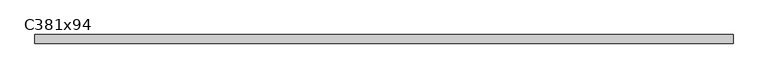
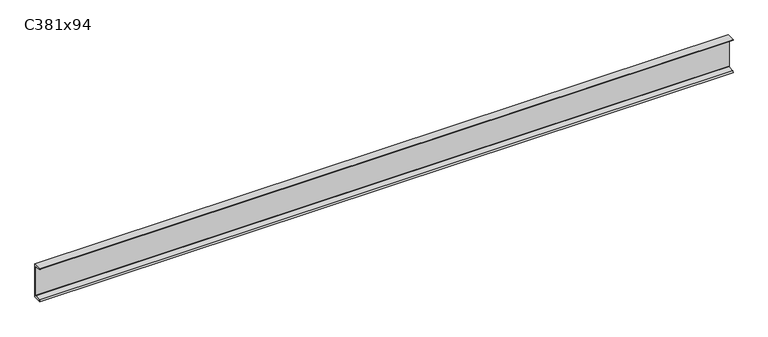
"""IFC4 building model written with IfcOpenShell, lengths in millimetres: beam geometry, M_C-Channel_305x105 : C381x94."""

from ifc_helpers import new_model, si_unit, point, frame, frame_2d, origin, place, context, project, spatial, polyline, circle_curve, trimmed, segment, composite_curve, outline, extrude, source, transform, mapped, element, save


def c381x94_58a36d87(model_context):
    return source(origin(), model_context, "Body", "SweptSolid", [
        extrude(outline(composite_curve([segment(polyline([(13.8909985, 190.5), (13.8909985, -190.5), (-80.1090015, -190.5)]), True, "CONTINUOUS"), segment(trimmed(circle_curve(frame_2d((-67.4090015, -190.5)), 12.7), [point((-80.1090015, -190.5))], [point((-67.4090015, -177.8))], False, "CARTESIAN"), True, "CONTINUOUS"), segment(polyline([(-67.4090015, -177.8), (0.8909985, -166.9823427), (0.8909985, 166.9823427), (-67.4090015, 177.8)]), True, "CONTINUOUS"), segment(trimmed(circle_curve(frame_2d((-67.4090015, 190.5)), 12.7), [point((-67.4090015, 177.8))], [point((-80.1090015, 190.5))], False, "CARTESIAN"), True, "CONTINUOUS"), segment(polyline([(-80.1090015, 190.5), (13.8909985, 190.5)]), True, "CONTINUOUS")], self_intersect=False)), frame((-1776.789, 0.0, 0.0), z_axis=(1.0, 0.0, 0.0), x_axis=(0.0, 1.0, 0.0)), (0.0, 0.0, 1.0), 7620.8409991),
        extrude(outline(polyline([(-4.2340015, 166.8239583), (0.8909985, 166.012238), (0.8909985, -166.012238), (-4.2340015, -166.8239583), (-4.2340015, -164.495707), (-4.2340015, 166.8239583)])), frame((-1776.789, 0.0, 0.0), z_axis=(1.0, 0.0, 0.0), x_axis=(0.0, 1.0, 0.0)), (0.0, 0.0, 1.0), 7620.8409991),
    ])


if __name__ == "__main__":
    model = new_model("IFC4")
    model_context = context("Model", 3, world=origin())
    ifc_project = project(units=[si_unit("LENGTHUNIT", "METRE", prefix="MILLI")], contexts=[model_context])
    site = spatial("IfcSite", under=ifc_project)
    building = spatial("IfcBuilding", under=site)
    placement = place(None, origin())
    c381x94_shape = c381x94_58a36d87(model_context)
    element("IfcBeam", 1, ObjectType="M_C-Channel_305x105 : C381x94", at=placement, inside=building, context=model_context, shape_type="MappedRepresentation", body=[
        mapped(c381x94_shape, transform((0.0, 0.0, 0.0), x_axis=(1.0, 0.0, 0.0), y_axis=(0.0, 1.0, 0.0), z_axis=(0.0, 0.0, 1.0))),
    ])
    save(model, "model.ifc")
